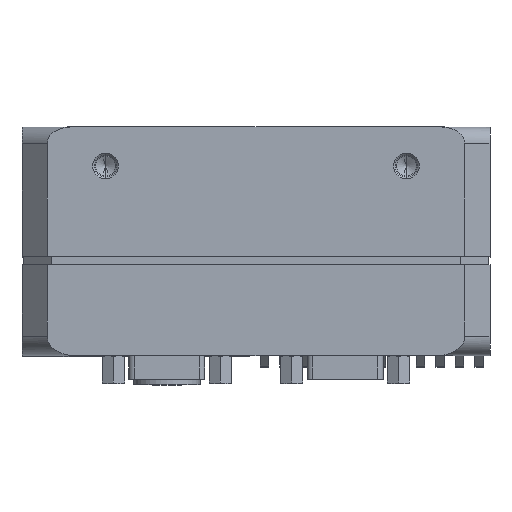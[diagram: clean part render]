
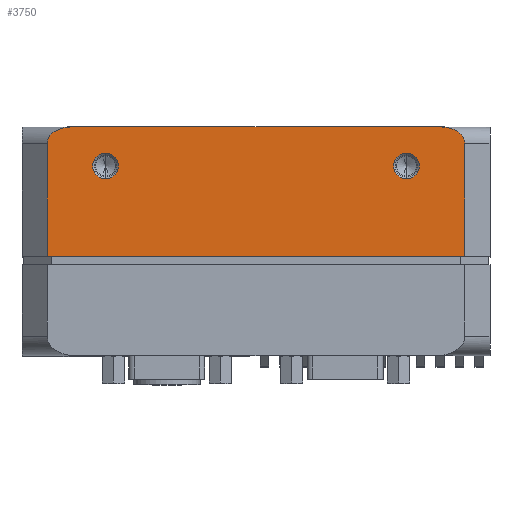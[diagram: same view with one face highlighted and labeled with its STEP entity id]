
A CAD part, top view. The second image highlights one B-rep face of the part: STEP entity #3750.
In plain terms, the highlighted planar face has unit normal (0, 0, 1).
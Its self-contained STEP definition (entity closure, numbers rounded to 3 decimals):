
#21=DIRECTION('',(1.,0.,0.));
#22=VECTOR('',#21,75.);
#23=CARTESIAN_POINT('',(-37.5,0.,42.));
#24=LINE('',#23,#22);
#223=CARTESIAN_POINT('',(-33.257,23.21,42.));
#224=CARTESIAN_POINT('',(-33.861,23.21,42.));
#225=CARTESIAN_POINT('',(-34.9,23.042,42.));
#226=CARTESIAN_POINT('',(-36.152,22.483,42.));
#227=CARTESIAN_POINT('',(-36.952,21.775,42.));
#228=CARTESIAN_POINT('',(-37.385,21.,42.));
#229=CARTESIAN_POINT('',(-37.5,20.512,42.));
#230=CARTESIAN_POINT('',(-37.5,20.21,42.));
#232=CARTESIAN_POINT('',(37.5,20.21,42.));
#233=CARTESIAN_POINT('',(37.5,20.512,42.));
#234=CARTESIAN_POINT('',(37.385,21.,42.));
#235=CARTESIAN_POINT('',(36.952,21.775,42.));
#236=CARTESIAN_POINT('',(36.152,22.483,42.));
#237=CARTESIAN_POINT('',(34.9,23.042,42.));
#238=CARTESIAN_POINT('',(33.861,23.21,42.));
#239=CARTESIAN_POINT('',(33.257,23.21,42.));
#241=DIRECTION('',(0.,-1.,0.));
#242=VECTOR('',#241,20.21);
#243=CARTESIAN_POINT('',(37.5,20.21,42.));
#244=LINE('',#243,#242);
#245=DIRECTION('',(0.,-1.,0.));
#246=VECTOR('',#245,20.21);
#247=CARTESIAN_POINT('',(-37.5,20.21,42.));
#248=LINE('',#247,#246);
#249=CARTESIAN_POINT('',(27.,16.21,42.));
#250=DIRECTION('',(0.,0.,-1.));
#251=DIRECTION('',(0.,1.,0.));
#252=AXIS2_PLACEMENT_3D('',#249,#250,#251);
#254=CARTESIAN_POINT('',(27.,16.21,42.));
#255=DIRECTION('',(0.,0.,-1.));
#256=DIRECTION('',(0.,-1.,0.));
#257=AXIS2_PLACEMENT_3D('',#254,#255,#256);
#259=CARTESIAN_POINT('',(-27.,16.21,42.));
#260=DIRECTION('',(0.,0.,-1.));
#261=DIRECTION('',(0.,1.,0.));
#262=AXIS2_PLACEMENT_3D('',#259,#260,#261);
#264=CARTESIAN_POINT('',(-27.,16.21,42.));
#265=DIRECTION('',(0.,0.,-1.));
#266=DIRECTION('',(0.,-1.,0.));
#267=AXIS2_PLACEMENT_3D('',#264,#265,#266);
#1382=DIRECTION('',(1.,0.,0.));
#1383=VECTOR('',#1382,66.515);
#1384=CARTESIAN_POINT('',(-33.257,23.21,42.));
#1385=LINE('',#1384,#1383);
#2647=CARTESIAN_POINT('',(-37.5,0.,42.));
#2649=VERTEX_POINT('',#2647);
#2652=CARTESIAN_POINT('',(37.5,0.,42.));
#2654=VERTEX_POINT('',#2652);
#2852=VERTEX_POINT('',#223);
#2853=VERTEX_POINT('',#230);
#2859=CARTESIAN_POINT('',(37.5,20.21,42.));
#2860=VERTEX_POINT('',#2859);
#2861=VERTEX_POINT('',#239);
#2931=CARTESIAN_POINT('',(27.,18.51,42.));
#2932=CARTESIAN_POINT('',(27.,13.91,42.));
#2933=VERTEX_POINT('',#2931);
#2934=VERTEX_POINT('',#2932);
#2939=CARTESIAN_POINT('',(-27.,18.51,42.));
#2940=CARTESIAN_POINT('',(-27.,13.91,42.));
#2941=VERTEX_POINT('',#2939);
#2942=VERTEX_POINT('',#2940);
#3722=CARTESIAN_POINT('',(-42.,0.,42.));
#3723=DIRECTION('',(0.,0.,1.));
#3724=DIRECTION('',(1.,0.,0.));
#3725=AXIS2_PLACEMENT_3D('',#3722,#3723,#3724);
#3726=PLANE('',#3725);
#3728=ORIENTED_EDGE('',*,*,#3727,.F.);
#3730=ORIENTED_EDGE('',*,*,#3729,.T.);
#3731=ORIENTED_EDGE('',*,*,#3715,.F.);
#3732=ORIENTED_EDGE('',*,*,#3703,.T.);
#3733=ORIENTED_EDGE('',*,*,#3418,.F.);
#3735=ORIENTED_EDGE('',*,*,#3734,.F.);
#3736=EDGE_LOOP('',(#3728,#3730,#3731,#3732,#3733,#3735));
#3737=FACE_OUTER_BOUND('',#3736,.F.);
#3739=ORIENTED_EDGE('',*,*,#3738,.F.);
#3741=ORIENTED_EDGE('',*,*,#3740,.F.);
#3742=EDGE_LOOP('',(#3739,#3741));
#3743=FACE_BOUND('',#3742,.F.);
#3745=ORIENTED_EDGE('',*,*,#3744,.F.);
#3747=ORIENTED_EDGE('',*,*,#3746,.F.);
#3748=EDGE_LOOP('',(#3745,#3747));
#3749=FACE_BOUND('',#3748,.F.);
#3750=ADVANCED_FACE('',(#3737,#3743,#3749),#3726,.T.);
#231=B_SPLINE_CURVE_WITH_KNOTS('',3,(#223,#224,#225,#226,#227,#228,#229,#230),
.UNSPECIFIED.,.F.,.F.,(4,1,1,1,1,4),(0.,0.25,0.5,0.75,0.875,1.),
.UNSPECIFIED.);
#240=B_SPLINE_CURVE_WITH_KNOTS('',3,(#232,#233,#234,#235,#236,#237,#238,#239),
.UNSPECIFIED.,.F.,.F.,(4,1,1,1,1,4),(0.,0.125,0.25,0.5,0.75,1.),
.UNSPECIFIED.);
#253=CIRCLE('',#252,2.3);
#258=CIRCLE('',#257,2.3);
#263=CIRCLE('',#262,2.3);
#268=CIRCLE('',#267,2.3);
#3418=EDGE_CURVE('',#2649,#2654,#24,.T.);
#3703=EDGE_CURVE('',#2860,#2654,#244,.T.);
#3715=EDGE_CURVE('',#2860,#2861,#240,.T.);
#3727=EDGE_CURVE('',#2852,#2853,#231,.T.);
#3729=EDGE_CURVE('',#2852,#2861,#1385,.T.);
#3734=EDGE_CURVE('',#2853,#2649,#248,.T.);
#3738=EDGE_CURVE('',#2933,#2934,#253,.T.);
#3740=EDGE_CURVE('',#2934,#2933,#258,.T.);
#3744=EDGE_CURVE('',#2941,#2942,#263,.T.);
#3746=EDGE_CURVE('',#2942,#2941,#268,.T.);
